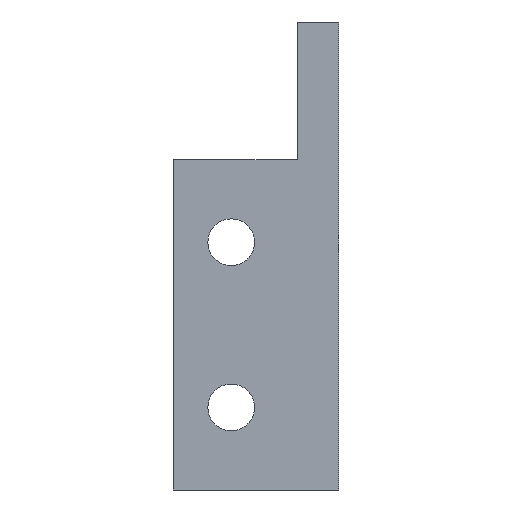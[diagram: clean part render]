
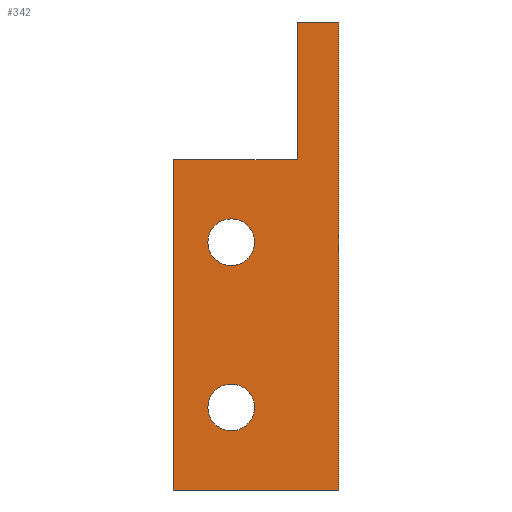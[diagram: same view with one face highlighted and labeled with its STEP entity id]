
A CAD part, front view. The second image highlights one B-rep face of the part: STEP entity #342.
In plain terms, the highlighted planar face has unit normal (0, -1, 0).
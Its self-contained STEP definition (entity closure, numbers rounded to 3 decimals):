
#21 = EDGE_CURVE('',#22,#24,#26,.T.);
#22 = VERTEX_POINT('',#23);
#23 = CARTESIAN_POINT('',(-10.2,-18.,-4.));
#24 = VERTEX_POINT('',#25);
#25 = CARTESIAN_POINT('',(-10.2,-18.,30.));
#26 = SURFACE_CURVE('',#27,(#31,#43),.PCURVE_S1.);
#27 = LINE('',#28,#29);
#28 = CARTESIAN_POINT('',(-10.2,-18.,-4.));
#29 = VECTOR('',#30,1.);
#30 = DIRECTION('',(-0.,-0.,1.));
#31 = PCURVE('',#32,#37);
#32 = PLANE('',#33);
#33 = AXIS2_PLACEMENT_3D('',#34,#35,#36);
#34 = CARTESIAN_POINT('',(-10.2,-18.,0.));
#35 = DIRECTION('',(-1.,-0.,-0.));
#36 = DIRECTION('',(0.,0.,-1.));
#37 = DEFINITIONAL_REPRESENTATION('',(#38),#42);
#38 = LINE('',#39,#40);
#39 = CARTESIAN_POINT('',(4.,-0.));
#40 = VECTOR('',#41,1.);
#41 = DIRECTION('',(-1.,-0.));
#42 = ( GEOMETRIC_REPRESENTATION_CONTEXT(2) 
PARAMETRIC_REPRESENTATION_CONTEXT() REPRESENTATION_CONTEXT('2D SPACE',''
  ) );
#43 = PCURVE('',#44,#49);
#44 = PLANE('',#45);
#45 = AXIS2_PLACEMENT_3D('',#46,#47,#48);
#46 = CARTESIAN_POINT('',(-10.2,-18.,0.));
#47 = DIRECTION('',(-0.,1.,-0.));
#48 = DIRECTION('',(0.,0.,-1.));
#49 = DEFINITIONAL_REPRESENTATION('',(#50),#54);
#50 = LINE('',#51,#52);
#51 = CARTESIAN_POINT('',(4.,-0.));
#52 = VECTOR('',#53,1.);
#53 = DIRECTION('',(-1.,0.));
#54 = ( GEOMETRIC_REPRESENTATION_CONTEXT(2) 
PARAMETRIC_REPRESENTATION_CONTEXT() REPRESENTATION_CONTEXT('2D SPACE',''
  ) );
#72 = PLANE('',#73);
#73 = AXIS2_PLACEMENT_3D('',#74,#75,#76);
#74 = CARTESIAN_POINT('',(-10.2,-18.,-4.));
#75 = DIRECTION('',(0.,0.,1.));
#76 = DIRECTION('',(1.,0.,0.));
#182 = PLANE('',#183);
#183 = AXIS2_PLACEMENT_3D('',#184,#185,#186);
#184 = CARTESIAN_POINT('',(-10.2,-18.,30.));
#185 = DIRECTION('',(0.,0.,1.));
#186 = DIRECTION('',(1.,0.,0.));
#342 = ADVANCED_FACE('',(#343,#474,#509),#44,.F.);
#343 = FACE_BOUND('',#344,.T.);
#344 = EDGE_LOOP('',(#345,#368,#396,#424,#452,#473));
#345 = ORIENTED_EDGE('',*,*,#346,.T.);
#346 = EDGE_CURVE('',#24,#347,#349,.T.);
#347 = VERTEX_POINT('',#348);
#348 = CARTESIAN_POINT('',(-13.2,-18.,30.));
#349 = SURFACE_CURVE('',#350,(#354,#361),.PCURVE_S1.);
#350 = LINE('',#351,#352);
#351 = CARTESIAN_POINT('',(-10.2,-18.,30.));
#352 = VECTOR('',#353,1.);
#353 = DIRECTION('',(-1.,-0.,0.));
#354 = PCURVE('',#44,#355);
#355 = DEFINITIONAL_REPRESENTATION('',(#356),#360);
#356 = LINE('',#357,#358);
#357 = CARTESIAN_POINT('',(-30.,-0.));
#358 = VECTOR('',#359,1.);
#359 = DIRECTION('',(-0.,1.));
#360 = ( GEOMETRIC_REPRESENTATION_CONTEXT(2) 
PARAMETRIC_REPRESENTATION_CONTEXT() REPRESENTATION_CONTEXT('2D SPACE',''
  ) );
#361 = PCURVE('',#182,#362);
#362 = DEFINITIONAL_REPRESENTATION('',(#363),#367);
#363 = LINE('',#364,#365);
#364 = CARTESIAN_POINT('',(0.,-0.));
#365 = VECTOR('',#366,1.);
#366 = DIRECTION('',(-1.,0.));
#367 = ( GEOMETRIC_REPRESENTATION_CONTEXT(2) 
PARAMETRIC_REPRESENTATION_CONTEXT() REPRESENTATION_CONTEXT('2D SPACE',''
  ) );
#368 = ORIENTED_EDGE('',*,*,#369,.F.);
#369 = EDGE_CURVE('',#370,#347,#372,.T.);
#370 = VERTEX_POINT('',#371);
#371 = CARTESIAN_POINT('',(-13.2,-18.,20.));
#372 = SURFACE_CURVE('',#373,(#377,#384),.PCURVE_S1.);
#373 = LINE('',#374,#375);
#374 = CARTESIAN_POINT('',(-13.2,-18.,0.));
#375 = VECTOR('',#376,1.);
#376 = DIRECTION('',(0.,0.,1.));
#377 = PCURVE('',#44,#378);
#378 = DEFINITIONAL_REPRESENTATION('',(#379),#383);
#379 = LINE('',#380,#381);
#380 = CARTESIAN_POINT('',(-0.,3.));
#381 = VECTOR('',#382,1.);
#382 = DIRECTION('',(-1.,-0.));
#383 = ( GEOMETRIC_REPRESENTATION_CONTEXT(2) 
PARAMETRIC_REPRESENTATION_CONTEXT() REPRESENTATION_CONTEXT('2D SPACE',''
  ) );
#384 = PCURVE('',#385,#390);
#385 = PLANE('',#386);
#386 = AXIS2_PLACEMENT_3D('',#387,#388,#389);
#387 = CARTESIAN_POINT('',(-13.2,-18.,0.));
#388 = DIRECTION('',(-1.,-0.,0.));
#389 = DIRECTION('',(0.,0.,-1.));
#390 = DEFINITIONAL_REPRESENTATION('',(#391),#395);
#391 = LINE('',#392,#393);
#392 = CARTESIAN_POINT('',(-0.,-0.));
#393 = VECTOR('',#394,1.);
#394 = DIRECTION('',(-1.,-0.));
#395 = ( GEOMETRIC_REPRESENTATION_CONTEXT(2) 
PARAMETRIC_REPRESENTATION_CONTEXT() REPRESENTATION_CONTEXT('2D SPACE',''
  ) );
#396 = ORIENTED_EDGE('',*,*,#397,.T.);
#397 = EDGE_CURVE('',#370,#398,#400,.T.);
#398 = VERTEX_POINT('',#399);
#399 = CARTESIAN_POINT('',(-22.2,-18.,20.));
#400 = SURFACE_CURVE('',#401,(#405,#412),.PCURVE_S1.);
#401 = LINE('',#402,#403);
#402 = CARTESIAN_POINT('',(-10.2,-18.,20.));
#403 = VECTOR('',#404,1.);
#404 = DIRECTION('',(-1.,-0.,0.));
#405 = PCURVE('',#44,#406);
#406 = DEFINITIONAL_REPRESENTATION('',(#407),#411);
#407 = LINE('',#408,#409);
#408 = CARTESIAN_POINT('',(-20.,-0.));
#409 = VECTOR('',#410,1.);
#410 = DIRECTION('',(-0.,1.));
#411 = ( GEOMETRIC_REPRESENTATION_CONTEXT(2) 
PARAMETRIC_REPRESENTATION_CONTEXT() REPRESENTATION_CONTEXT('2D SPACE',''
  ) );
#412 = PCURVE('',#413,#418);
#413 = PLANE('',#414);
#414 = AXIS2_PLACEMENT_3D('',#415,#416,#417);
#415 = CARTESIAN_POINT('',(-10.2,-18.,20.));
#416 = DIRECTION('',(0.,0.,1.));
#417 = DIRECTION('',(1.,0.,0.));
#418 = DEFINITIONAL_REPRESENTATION('',(#419),#423);
#419 = LINE('',#420,#421);
#420 = CARTESIAN_POINT('',(0.,-0.));
#421 = VECTOR('',#422,1.);
#422 = DIRECTION('',(-1.,0.));
#423 = ( GEOMETRIC_REPRESENTATION_CONTEXT(2) 
PARAMETRIC_REPRESENTATION_CONTEXT() REPRESENTATION_CONTEXT('2D SPACE',''
  ) );
#424 = ORIENTED_EDGE('',*,*,#425,.F.);
#425 = EDGE_CURVE('',#426,#398,#428,.T.);
#426 = VERTEX_POINT('',#427);
#427 = CARTESIAN_POINT('',(-22.2,-18.,-4.));
#428 = SURFACE_CURVE('',#429,(#433,#440),.PCURVE_S1.);
#429 = LINE('',#430,#431);
#430 = CARTESIAN_POINT('',(-22.2,-18.,-4.));
#431 = VECTOR('',#432,1.);
#432 = DIRECTION('',(0.,0.,1.));
#433 = PCURVE('',#44,#434);
#434 = DEFINITIONAL_REPRESENTATION('',(#435),#439);
#435 = LINE('',#436,#437);
#436 = CARTESIAN_POINT('',(4.,12.));
#437 = VECTOR('',#438,1.);
#438 = DIRECTION('',(-1.,-0.));
#439 = ( GEOMETRIC_REPRESENTATION_CONTEXT(2) 
PARAMETRIC_REPRESENTATION_CONTEXT() REPRESENTATION_CONTEXT('2D SPACE',''
  ) );
#440 = PCURVE('',#441,#446);
#441 = PLANE('',#442);
#442 = AXIS2_PLACEMENT_3D('',#443,#444,#445);
#443 = CARTESIAN_POINT('',(-22.2,-18.,-4.));
#444 = DIRECTION('',(-1.,-0.,0.));
#445 = DIRECTION('',(0.,0.,-1.));
#446 = DEFINITIONAL_REPRESENTATION('',(#447),#451);
#447 = LINE('',#448,#449);
#448 = CARTESIAN_POINT('',(-0.,-0.));
#449 = VECTOR('',#450,1.);
#450 = DIRECTION('',(-1.,-0.));
#451 = ( GEOMETRIC_REPRESENTATION_CONTEXT(2) 
PARAMETRIC_REPRESENTATION_CONTEXT() REPRESENTATION_CONTEXT('2D SPACE',''
  ) );
#452 = ORIENTED_EDGE('',*,*,#453,.F.);
#453 = EDGE_CURVE('',#22,#426,#454,.T.);
#454 = SURFACE_CURVE('',#455,(#459,#466),.PCURVE_S1.);
#455 = LINE('',#456,#457);
#456 = CARTESIAN_POINT('',(-10.2,-18.,-4.));
#457 = VECTOR('',#458,1.);
#458 = DIRECTION('',(-1.,-0.,0.));
#459 = PCURVE('',#44,#460);
#460 = DEFINITIONAL_REPRESENTATION('',(#461),#465);
#461 = LINE('',#462,#463);
#462 = CARTESIAN_POINT('',(4.,-0.));
#463 = VECTOR('',#464,1.);
#464 = DIRECTION('',(-0.,1.));
#465 = ( GEOMETRIC_REPRESENTATION_CONTEXT(2) 
PARAMETRIC_REPRESENTATION_CONTEXT() REPRESENTATION_CONTEXT('2D SPACE',''
  ) );
#466 = PCURVE('',#72,#467);
#467 = DEFINITIONAL_REPRESENTATION('',(#468),#472);
#468 = LINE('',#469,#470);
#469 = CARTESIAN_POINT('',(0.,-0.));
#470 = VECTOR('',#471,1.);
#471 = DIRECTION('',(-1.,0.));
#472 = ( GEOMETRIC_REPRESENTATION_CONTEXT(2) 
PARAMETRIC_REPRESENTATION_CONTEXT() REPRESENTATION_CONTEXT('2D SPACE',''
  ) );
#473 = ORIENTED_EDGE('',*,*,#21,.T.);
#474 = FACE_BOUND('',#475,.T.);
#475 = EDGE_LOOP('',(#476));
#476 = ORIENTED_EDGE('',*,*,#477,.F.);
#477 = EDGE_CURVE('',#478,#478,#480,.T.);
#478 = VERTEX_POINT('',#479);
#479 = CARTESIAN_POINT('',(-19.7,-18.,2.));
#480 = SURFACE_CURVE('',#481,(#486,#497),.PCURVE_S1.);
#481 = CIRCLE('',#482,1.7);
#482 = AXIS2_PLACEMENT_3D('',#483,#484,#485);
#483 = CARTESIAN_POINT('',(-18.,-18.,2.));
#484 = DIRECTION('',(0.,-1.,0.));
#485 = DIRECTION('',(-1.,-0.,-0.));
#486 = PCURVE('',#44,#487);
#487 = DEFINITIONAL_REPRESENTATION('',(#488),#496);
#488 = ( BOUNDED_CURVE() B_SPLINE_CURVE(2,(#489,#490,#491,#492,#493,#494
,#495),.UNSPECIFIED.,.T.,.F.) B_SPLINE_CURVE_WITH_KNOTS((1,2,2,2,2,1),(
    -2.094,0.,2.094,4.189,6.283,
8.378),.UNSPECIFIED.) CURVE() GEOMETRIC_REPRESENTATION_ITEM() 
RATIONAL_B_SPLINE_CURVE((1.,0.5,1.,0.5,1.,0.5,1.)) REPRESENTATION_ITEM(
  '') );
#489 = CARTESIAN_POINT('',(-2.,9.5));
#490 = CARTESIAN_POINT('',(0.944,9.5));
#491 = CARTESIAN_POINT('',(-0.528,6.95));
#492 = CARTESIAN_POINT('',(-2.,4.4));
#493 = CARTESIAN_POINT('',(-3.472,6.95));
#494 = CARTESIAN_POINT('',(-4.944,9.5));
#495 = CARTESIAN_POINT('',(-2.,9.5));
#496 = ( GEOMETRIC_REPRESENTATION_CONTEXT(2) 
PARAMETRIC_REPRESENTATION_CONTEXT() REPRESENTATION_CONTEXT('2D SPACE',''
  ) );
#497 = PCURVE('',#498,#503);
#498 = CYLINDRICAL_SURFACE('',#499,1.7);
#499 = AXIS2_PLACEMENT_3D('',#500,#501,#502);
#500 = CARTESIAN_POINT('',(-18.,-13.,2.));
#501 = DIRECTION('',(-0.,1.,-0.));
#502 = DIRECTION('',(-1.,-0.,-0.));
#503 = DEFINITIONAL_REPRESENTATION('',(#504),#508);
#504 = LINE('',#505,#506);
#505 = CARTESIAN_POINT('',(6.283,-5.));
#506 = VECTOR('',#507,1.);
#507 = DIRECTION('',(-1.,0.));
#508 = ( GEOMETRIC_REPRESENTATION_CONTEXT(2) 
PARAMETRIC_REPRESENTATION_CONTEXT() REPRESENTATION_CONTEXT('2D SPACE',''
  ) );
#509 = FACE_BOUND('',#510,.T.);
#510 = EDGE_LOOP('',(#511));
#511 = ORIENTED_EDGE('',*,*,#512,.F.);
#512 = EDGE_CURVE('',#513,#513,#515,.T.);
#513 = VERTEX_POINT('',#514);
#514 = CARTESIAN_POINT('',(-19.7,-18.,14.));
#515 = SURFACE_CURVE('',#516,(#521,#532),.PCURVE_S1.);
#516 = CIRCLE('',#517,1.7);
#517 = AXIS2_PLACEMENT_3D('',#518,#519,#520);
#518 = CARTESIAN_POINT('',(-18.,-18.,14.));
#519 = DIRECTION('',(0.,-1.,0.));
#520 = DIRECTION('',(-1.,-0.,-0.));
#521 = PCURVE('',#44,#522);
#522 = DEFINITIONAL_REPRESENTATION('',(#523),#531);
#523 = ( BOUNDED_CURVE() B_SPLINE_CURVE(2,(#524,#525,#526,#527,#528,#529
,#530),.UNSPECIFIED.,.T.,.F.) B_SPLINE_CURVE_WITH_KNOTS((1,2,2,2,2,1),(
    -2.094,0.,2.094,4.189,6.283,
8.378),.UNSPECIFIED.) CURVE() GEOMETRIC_REPRESENTATION_ITEM() 
RATIONAL_B_SPLINE_CURVE((1.,0.5,1.,0.5,1.,0.5,1.)) REPRESENTATION_ITEM(
  '') );
#524 = CARTESIAN_POINT('',(-14.,9.5));
#525 = CARTESIAN_POINT('',(-11.056,9.5));
#526 = CARTESIAN_POINT('',(-12.528,6.95));
#527 = CARTESIAN_POINT('',(-14.,4.4));
#528 = CARTESIAN_POINT('',(-15.472,6.95));
#529 = CARTESIAN_POINT('',(-16.944,9.5));
#530 = CARTESIAN_POINT('',(-14.,9.5));
#531 = ( GEOMETRIC_REPRESENTATION_CONTEXT(2) 
PARAMETRIC_REPRESENTATION_CONTEXT() REPRESENTATION_CONTEXT('2D SPACE',''
  ) );
#532 = PCURVE('',#533,#538);
#533 = CYLINDRICAL_SURFACE('',#534,1.7);
#534 = AXIS2_PLACEMENT_3D('',#535,#536,#537);
#535 = CARTESIAN_POINT('',(-18.,-13.,14.));
#536 = DIRECTION('',(-0.,1.,-0.));
#537 = DIRECTION('',(-1.,-0.,-0.));
#538 = DEFINITIONAL_REPRESENTATION('',(#539),#543);
#539 = LINE('',#540,#541);
#540 = CARTESIAN_POINT('',(6.283,-5.));
#541 = VECTOR('',#542,1.);
#542 = DIRECTION('',(-1.,0.));
#543 = ( GEOMETRIC_REPRESENTATION_CONTEXT(2) 
PARAMETRIC_REPRESENTATION_CONTEXT() REPRESENTATION_CONTEXT('2D SPACE',''
  ) );
